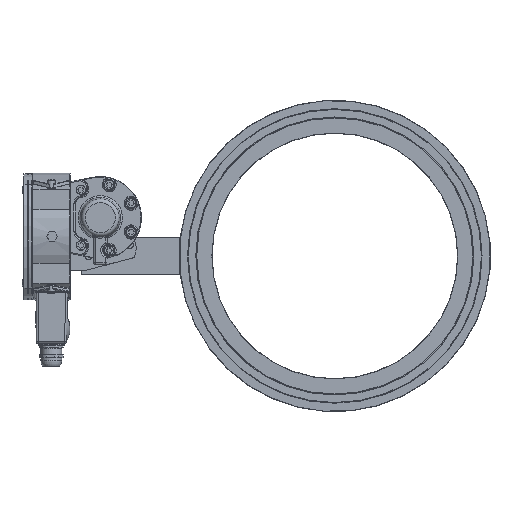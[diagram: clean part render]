
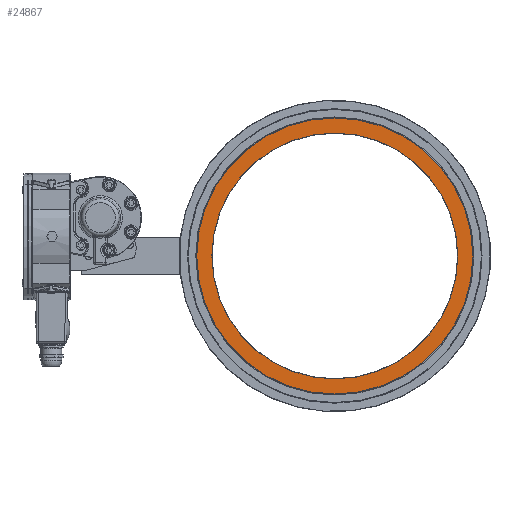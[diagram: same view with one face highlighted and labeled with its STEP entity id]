
A CAD part, top view. The second image highlights one B-rep face of the part: STEP entity #24867.
In plain terms, the highlighted planar face has unit normal (0, 0, 1).
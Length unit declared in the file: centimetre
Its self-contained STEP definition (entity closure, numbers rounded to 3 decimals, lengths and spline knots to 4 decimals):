
#7185=PLANE('',#26759);
#9264=VERTEX_POINT('',#59456);
#9265=VERTEX_POINT('',#59458);
#10191=CIRCLE('',#26791,14.625);
#10192=CIRCLE('',#26792,13.025);
#13347=EDGE_CURVE('',#9264,#9264,#10191,.T.);
#13348=EDGE_CURVE('',#9265,#9265,#10192,.T.);
#19691=ORIENTED_EDGE('',*,*,#13348,.F.);
#19692=ORIENTED_EDGE('',*,*,#13347,.F.);
#21613=EDGE_LOOP('',(#19691));
#21614=EDGE_LOOP('',(#19692));
#23400=FACE_BOUND('',#21613,.T.);
#23401=FACE_BOUND('',#21614,.T.);
#24867=ADVANCED_FACE('',(#23400,#23401),#7185,.F.);
#26759=AXIS2_PLACEMENT_3D('',#59398,#31375,$);
#26791=AXIS2_PLACEMENT_3D('',#59455,#31440,#31441);
#26792=AXIS2_PLACEMENT_3D('',#59457,#31442,#31443);
#31375=DIRECTION('',(0.,0.,-1.));
#31440=DIRECTION('',(0.,0.,-1.));
#31441=DIRECTION('',(-14.625,0.,0.));
#31442=DIRECTION('',(0.,0.,1.));
#31443=DIRECTION('',(13.025,0.,0.));
#59398=CARTESIAN_POINT('',(23.7465,-2.8808,-5.7025));
#59455=CARTESIAN_POINT('',(23.7465,-2.8808,-5.7025));
#59456=CARTESIAN_POINT('',(38.3715,-2.8808,-5.7025));
#59457=CARTESIAN_POINT('',(23.7465,-2.8808,-5.7025));
#59458=CARTESIAN_POINT('',(10.7215,-2.8808,-5.7025));
